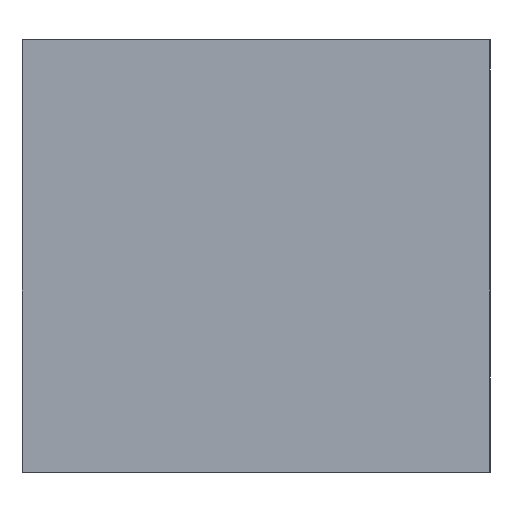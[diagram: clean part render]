
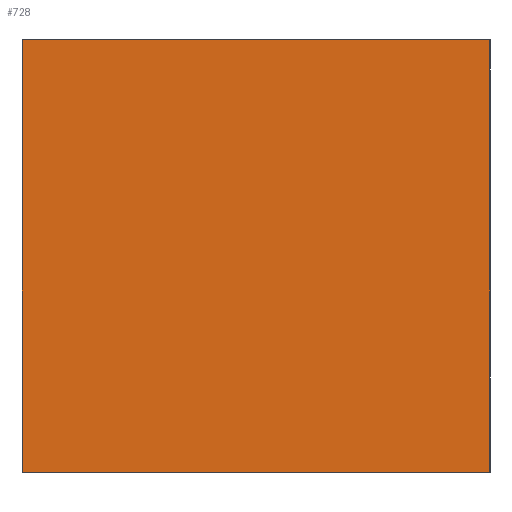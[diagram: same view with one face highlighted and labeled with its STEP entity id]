
A CAD part, top view. The second image highlights one B-rep face of the part: STEP entity #728.
In plain terms, the highlighted planar face has unit normal (0, 0, 1).
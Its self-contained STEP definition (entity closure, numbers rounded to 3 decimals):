
#707 = ORIENTED_EDGE ( 'NONE', *, *, #712, .T. ) ;
#708 = VERTEX_POINT ( 'NONE', #1192 ) ;
#709 = VERTEX_POINT ( 'NONE', #1191 ) ;
#712 = EDGE_CURVE ( 'NONE', #708, #731, #1247, .T. ) ;
#713 = ORIENTED_EDGE ( 'NONE', *, *, #714, .F. ) ;
#714 = EDGE_CURVE ( 'NONE', #708, #709, #1243, .T. ) ;
#721 = EDGE_CURVE ( 'NONE', #731, #734, #1228, .T. ) ;
#728 = ADVANCED_FACE ( 'NONE', ( #1271 ), #1270, .F. ) ;
#729 = ORIENTED_EDGE ( 'NONE', *, *, #721, .T. ) ;
#731 = VERTEX_POINT ( 'NONE', #1265 ) ;
#732 = EDGE_LOOP ( 'NONE', ( #729, #765, #713, #707 ) ) ;
#734 = VERTEX_POINT ( 'NONE', #1260 ) ;
#738 = EDGE_CURVE ( 'NONE', #709, #734, #1258, .T. ) ;
#765 = ORIENTED_EDGE ( 'NONE', *, *, #738, .F. ) ;
#1191 = CARTESIAN_POINT ( 'NONE',  ( 40., 0., 0. ) ) ;
#1192 = CARTESIAN_POINT ( 'NONE',  ( 40., 37., 0. ) ) ;
#1225 = DIRECTION ( 'NONE',  ( 0., -1., 0. ) ) ;
#1226 = VECTOR ( 'NONE', #1225, 1000. ) ;
#1227 = CARTESIAN_POINT ( 'NONE',  ( 0., 37., 0. ) ) ;
#1228 = LINE ( 'NONE', #1227, #1226 ) ;
#1240 = DIRECTION ( 'NONE',  ( 0., -1., 0. ) ) ;
#1241 = VECTOR ( 'NONE', #1240, 1000. ) ;
#1242 = CARTESIAN_POINT ( 'NONE',  ( 40., 37., 0. ) ) ;
#1243 = LINE ( 'NONE', #1242, #1241 ) ;
#1244 = DIRECTION ( 'NONE',  ( -1., 0., 0. ) ) ;
#1245 = VECTOR ( 'NONE', #1244, 1000. ) ;
#1246 = CARTESIAN_POINT ( 'NONE',  ( 40., 37., 0. ) ) ;
#1247 = LINE ( 'NONE', #1246, #1245 ) ;
#1255 = DIRECTION ( 'NONE',  ( -1., 0., 0. ) ) ;
#1256 = VECTOR ( 'NONE', #1255, 1000. ) ;
#1257 = CARTESIAN_POINT ( 'NONE',  ( 40., 0., 0. ) ) ;
#1258 = LINE ( 'NONE', #1257, #1256 ) ;
#1260 = CARTESIAN_POINT ( 'NONE',  ( 0., 0., 0. ) ) ;
#1265 = CARTESIAN_POINT ( 'NONE',  ( 0., 37., 0. ) ) ;
#1266 = DIRECTION ( 'NONE',  ( 0., 1., 0. ) ) ;
#1267 = DIRECTION ( 'NONE',  ( 0., 0., -1. ) ) ;
#1268 = CARTESIAN_POINT ( 'NONE',  ( 40., 37., 0. ) ) ;
#1269 = AXIS2_PLACEMENT_3D ( 'NONE', #1268, #1267, #1266 ) ;
#1270 = PLANE ( 'NONE',  #1269 ) ;
#1271 = FACE_OUTER_BOUND ( 'NONE', #732, .T. ) ;
